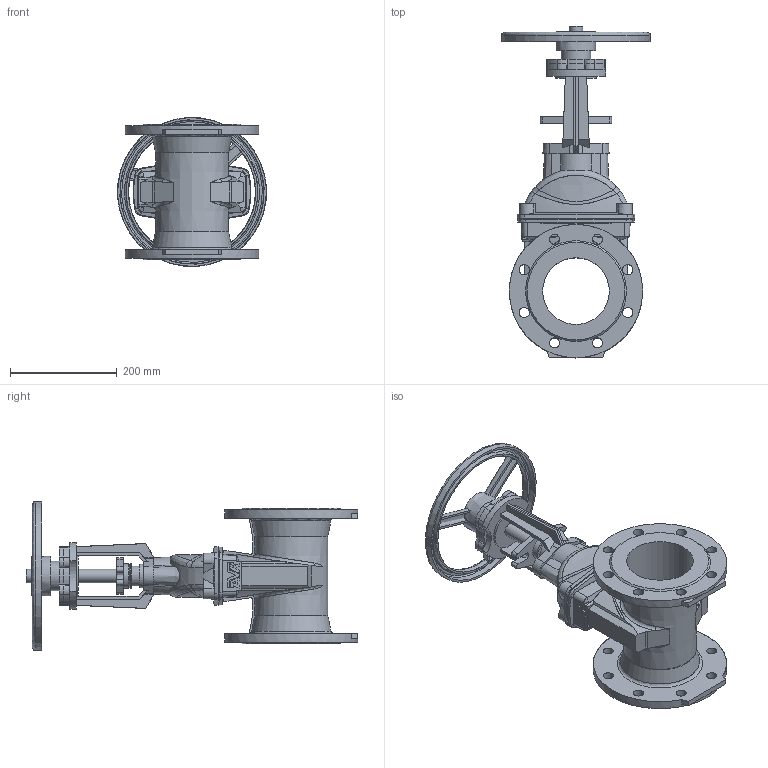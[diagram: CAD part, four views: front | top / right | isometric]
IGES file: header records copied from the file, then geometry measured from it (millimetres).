
Start section: SolidWorks IGES file using analytic representation for surfaces
Global section: file name: \\avksan2\techshare\PBM outline export from Enovia\O_21_34_DN125_41XXXXX close_REV01.igs; native system: SolidWorks 2019; preprocessor: SolidWorks 2019; author: pbm; date: 220215.081949; units: millimetre
Bounding box: 279.5 x 622.17 x 279.5 mm (x, y, z)
Surface area: 705028.1 mm2 (no closed solid volume)
Topology: 0 solids, 0 shells, 486 faces, 3213 edges, 3167 vertices
Faces by surface type: bspline 292, revolution 194
